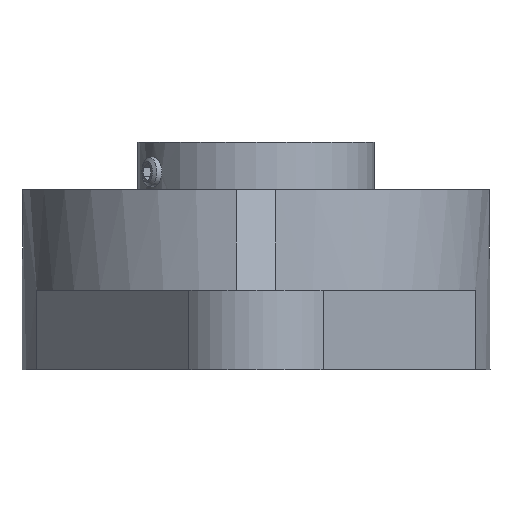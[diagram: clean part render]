
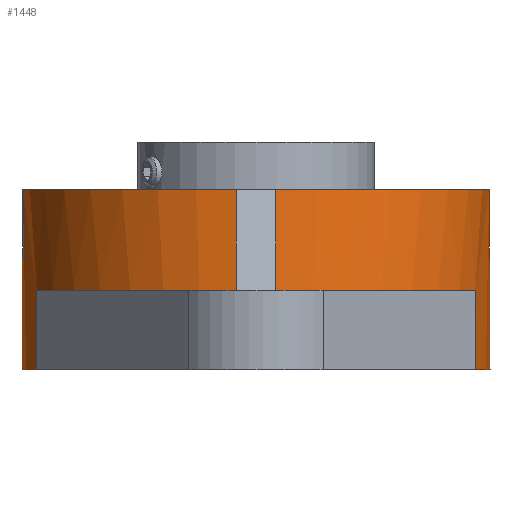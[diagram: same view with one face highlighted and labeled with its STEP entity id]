
A CAD part, front view. The second image highlights one B-rep face of the part: STEP entity #1448.
In plain terms, the highlighted cylindrical face has radius 47.5 mm (diameter 95 mm), a partial arc.
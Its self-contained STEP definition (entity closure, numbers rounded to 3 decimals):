
#118=FACE_BOUND('',#234,.T.);
#148=FACE_OUTER_BOUND('',#233,.T.);
#233=EDGE_LOOP('',(#970,#971,#972,#973,#974,#975,#976,#977));
#234=EDGE_LOOP('',(#978,#979));
#341=B_SPLINE_CURVE_WITH_KNOTS('',3,(#2312,#2313,#2314,#2315,#2316,#2317,
#2318,#2319,#2320,#2321,#2322,#2323,#2324,#2325,#2326,#2327,#2328,#2329),
 .UNSPECIFIED.,.F.,.F.,(4,2,2,2,2,2,2,2,4),(0.375,0.469,
0.563,0.656,0.75,0.844,
0.938,1.032,1.125),.UNSPECIFIED.);
#342=B_SPLINE_CURVE_WITH_KNOTS('',3,(#2330,#2331,#2332,#2333,#2334,#2335,
#2336,#2337,#2338,#2339,#2340,#2341,#2342,#2343,#2344,#2345,#2346,#2347,
#2348),.UNSPECIFIED.,.F.,.F.,(4,2,2,2,3,2,2,2,4),(1.125,1.219,
1.313,1.407,1.5,1.594,1.688,
1.782,1.876),.UNSPECIFIED.);
#354=LINE('',#2296,#436);
#355=LINE('',#2300,#437);
#356=LINE('',#2304,#438);
#357=LINE('',#2308,#439);
#436=VECTOR('',#1822,10.);
#437=VECTOR('',#1825,10.);
#438=VECTOR('',#1828,10.);
#439=VECTOR('',#1831,10.);
#524=CIRCLE('',#1630,47.5);
#525=CIRCLE('',#1631,47.5);
#526=CIRCLE('',#1632,47.5);
#527=CIRCLE('',#1633,47.5);
#613=VERTEX_POINT('',#2294);
#614=VERTEX_POINT('',#2295);
#615=VERTEX_POINT('',#2297);
#616=VERTEX_POINT('',#2299);
#617=VERTEX_POINT('',#2301);
#618=VERTEX_POINT('',#2303);
#619=VERTEX_POINT('',#2305);
#620=VERTEX_POINT('',#2307);
#621=VERTEX_POINT('',#2310);
#622=VERTEX_POINT('',#2311);
#758=EDGE_CURVE('',#613,#614,#354,.T.);
#759=EDGE_CURVE('',#615,#614,#524,.T.);
#760=EDGE_CURVE('',#616,#615,#355,.T.);
#761=EDGE_CURVE('',#616,#617,#525,.T.);
#762=EDGE_CURVE('',#617,#618,#356,.T.);
#763=EDGE_CURVE('',#619,#618,#526,.T.);
#764=EDGE_CURVE('',#619,#620,#357,.T.);
#765=EDGE_CURVE('',#620,#613,#527,.T.);
#766=EDGE_CURVE('',#621,#622,#341,.T.);
#767=EDGE_CURVE('',#622,#621,#342,.T.);
#970=ORIENTED_EDGE('',*,*,#758,.T.);
#971=ORIENTED_EDGE('',*,*,#759,.F.);
#972=ORIENTED_EDGE('',*,*,#760,.F.);
#973=ORIENTED_EDGE('',*,*,#761,.T.);
#974=ORIENTED_EDGE('',*,*,#762,.T.);
#975=ORIENTED_EDGE('',*,*,#763,.F.);
#976=ORIENTED_EDGE('',*,*,#764,.T.);
#977=ORIENTED_EDGE('',*,*,#765,.T.);
#978=ORIENTED_EDGE('',*,*,#766,.T.);
#979=ORIENTED_EDGE('',*,*,#767,.T.);
#1373=CYLINDRICAL_SURFACE('',#1629,47.5);
#1448=ADVANCED_FACE('',(#148,#118),#1373,.T.);
#1629=AXIS2_PLACEMENT_3D('',#2293,#1820,#1821);
#1630=AXIS2_PLACEMENT_3D('',#2298,#1823,#1824);
#1631=AXIS2_PLACEMENT_3D('',#2302,#1826,#1827);
#1632=AXIS2_PLACEMENT_3D('',#2306,#1829,#1830);
#1633=AXIS2_PLACEMENT_3D('',#2309,#1832,#1833);
#1820=DIRECTION('center_axis',(0.,0.,1.));
#1821=DIRECTION('ref_axis',(0.,1.,0.));
#1822=DIRECTION('',(0.,0.,-1.));
#1823=DIRECTION('center_axis',(0.,0.,
-1.));
#1824=DIRECTION('ref_axis',(-1.,0.,0.));
#1825=DIRECTION('',(0.,0.,1.));
#1826=DIRECTION('center_axis',(0.,0.,1.));
#1827=DIRECTION('ref_axis',(0.937,-0.35,0.));
#1828=DIRECTION('',(0.,0.,1.));
#1829=DIRECTION('center_axis',(0.,0.,
-1.));
#1830=DIRECTION('ref_axis',(-1.,0.,0.));
#1831=DIRECTION('',(0.,0.,1.));
#1832=DIRECTION('center_axis',(0.,0.,-1.));
#1833=DIRECTION('ref_axis',(-1.,0.,0.));
#2293=CARTESIAN_POINT('Origin',(0.,0.,-21.7));
#2294=CARTESIAN_POINT('',(4.,-47.331,14.8));
#2295=CARTESIAN_POINT('',(4.,-47.331,-5.6));
#2296=CARTESIAN_POINT('',(4.,-47.331,-21.7));
#2297=CARTESIAN_POINT('',(44.5,-16.613,-5.6));
#2298=CARTESIAN_POINT('Origin',(0.,0.,-5.6));
#2299=CARTESIAN_POINT('',(44.5,-16.613,-21.7));
#2300=CARTESIAN_POINT('',(44.5,-16.613,-21.7));
#2301=CARTESIAN_POINT('',(-44.5,-16.613,-21.7));
#2302=CARTESIAN_POINT('Origin',(0.,0.,-21.7));
#2303=CARTESIAN_POINT('',(-44.5,-16.613,-5.6));
#2304=CARTESIAN_POINT('',(-44.5,-16.613,-21.7));
#2305=CARTESIAN_POINT('',(-4.,-47.331,-5.6));
#2306=CARTESIAN_POINT('Origin',(0.,0.,-5.6));
#2307=CARTESIAN_POINT('',(-4.,-47.331,14.8));
#2308=CARTESIAN_POINT('',(-4.,-47.331,-21.7));
#2309=CARTESIAN_POINT('Origin',(0.,0.,14.8));
#2310=CARTESIAN_POINT('',(-33.588,33.588,2.811));
#2311=CARTESIAN_POINT('',(-33.588,33.588,7.789));
#2312=CARTESIAN_POINT('Ctrl Pts',(-33.588,33.588,2.811));
#2313=CARTESIAN_POINT('Ctrl Pts',(-33.367,33.809,2.811));
#2314=CARTESIAN_POINT('Ctrl Pts',(-33.128,34.042,2.873));
#2315=CARTESIAN_POINT('Ctrl Pts',(-32.686,34.467,3.128));
#2316=CARTESIAN_POINT('Ctrl Pts',(-32.482,34.659,3.319));
#2317=CARTESIAN_POINT('Ctrl Pts',(-32.158,34.959,3.761));
#2318=CARTESIAN_POINT('Ctrl Pts',(-32.016,35.089,4.041));
#2319=CARTESIAN_POINT('Ctrl Pts',(-31.828,35.26,4.654));
#2320=CARTESIAN_POINT('Ctrl Pts',(-31.781,35.301,4.987));
#2321=CARTESIAN_POINT('Ctrl Pts',(-31.781,35.301,5.613));
#2322=CARTESIAN_POINT('Ctrl Pts',(-31.828,35.26,5.946));
#2323=CARTESIAN_POINT('Ctrl Pts',(-32.016,35.089,6.559));
#2324=CARTESIAN_POINT('Ctrl Pts',(-32.158,34.959,6.839));
#2325=CARTESIAN_POINT('Ctrl Pts',(-32.482,34.659,7.281));
#2326=CARTESIAN_POINT('Ctrl Pts',(-32.686,34.467,7.472));
#2327=CARTESIAN_POINT('Ctrl Pts',(-33.128,34.042,7.727));
#2328=CARTESIAN_POINT('Ctrl Pts',(-33.367,33.809,7.789));
#2329=CARTESIAN_POINT('Ctrl Pts',(-33.588,33.588,7.789));
#2330=CARTESIAN_POINT('Ctrl Pts',(-33.588,33.588,7.789));
#2331=CARTESIAN_POINT('Ctrl Pts',(-33.809,33.367,7.789));
#2332=CARTESIAN_POINT('Ctrl Pts',(-34.042,33.128,7.727));
#2333=CARTESIAN_POINT('Ctrl Pts',(-34.467,32.686,7.472));
#2334=CARTESIAN_POINT('Ctrl Pts',(-34.659,32.482,7.281));
#2335=CARTESIAN_POINT('Ctrl Pts',(-34.959,32.158,6.839));
#2336=CARTESIAN_POINT('Ctrl Pts',(-35.089,32.016,6.559));
#2337=CARTESIAN_POINT('Ctrl Pts',(-35.26,31.828,5.946));
#2338=CARTESIAN_POINT('Ctrl Pts',(-35.301,31.781,5.613));
#2339=CARTESIAN_POINT('Ctrl Pts',(-35.301,31.781,5.3));
#2340=CARTESIAN_POINT('Ctrl Pts',(-35.301,31.781,4.987));
#2341=CARTESIAN_POINT('Ctrl Pts',(-35.26,31.828,4.654));
#2342=CARTESIAN_POINT('Ctrl Pts',(-35.089,32.016,4.041));
#2343=CARTESIAN_POINT('Ctrl Pts',(-34.959,32.158,3.761));
#2344=CARTESIAN_POINT('Ctrl Pts',(-34.659,32.482,3.319));
#2345=CARTESIAN_POINT('Ctrl Pts',(-34.467,32.686,3.128));
#2346=CARTESIAN_POINT('Ctrl Pts',(-34.042,33.128,2.873));
#2347=CARTESIAN_POINT('Ctrl Pts',(-33.809,33.367,2.811));
#2348=CARTESIAN_POINT('Ctrl Pts',(-33.588,33.588,2.811));
